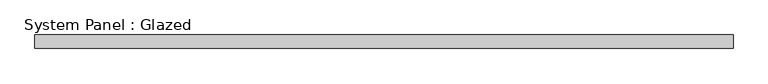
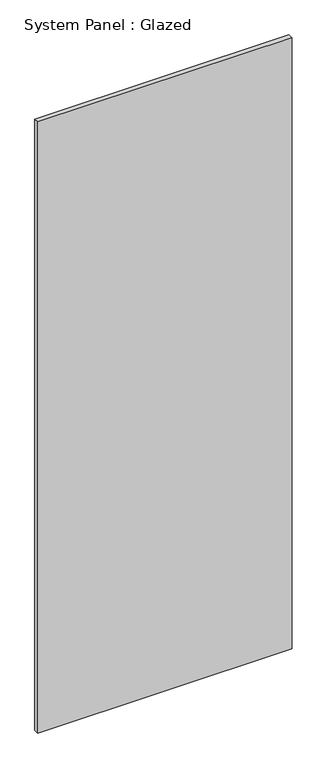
"""IFC4 building model written with IfcOpenShell, lengths in millimetres: plate geometry, System Panel : Glazed."""

from ifc_helpers import new_model, si_unit, origin, origin_with_axes, place, context, project, spatial, polyline, outline, extrude, source, transform, mapped, element, save


def system_panel_glazed_ad9418b8(model_context):
    return source(origin(), model_context, "Body", "SweptSolid", [
        extrude(outline(polyline([(650.0, 24.5), (-650.0, 24.5), (-650.0, 49.5), (650.0, 49.5), (650.0, 24.5)])), origin_with_axes(), (0.0, 0.0, 1.0), 3300.0),
    ])


if __name__ == "__main__":
    model = new_model("IFC4")
    model_context = context("Model", 3, world=origin())
    ifc_project = project(units=[si_unit("LENGTHUNIT", "METRE", prefix="MILLI")], contexts=[model_context])
    site = spatial("IfcSite", under=ifc_project)
    building = spatial("IfcBuilding", under=site)
    placement = place(None, origin())
    system_panel_glazed_shape = system_panel_glazed_ad9418b8(model_context)
    element("IfcPlate", 1, ObjectType="System Panel : Glazed", at=placement, inside=building, context=model_context, shape_type="MappedRepresentation", body=[
        mapped(system_panel_glazed_shape, transform((0.0, 0.0, 0.0), x_axis=(1.0, 0.0, 0.0), y_axis=(0.0, 1.0, 0.0), z_axis=(0.0, 0.0, 1.0))),
    ])
    save(model, "model.ifc")
